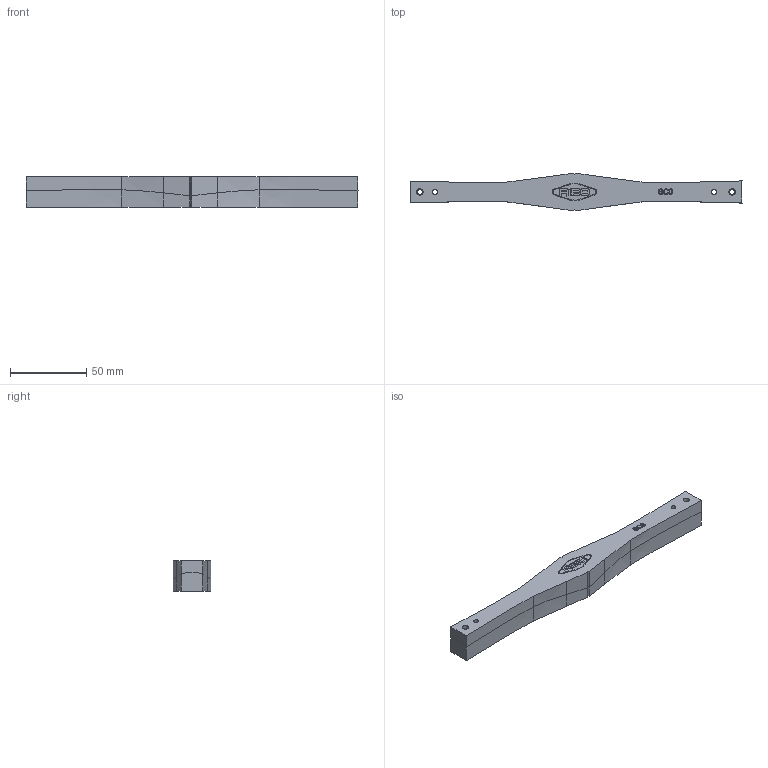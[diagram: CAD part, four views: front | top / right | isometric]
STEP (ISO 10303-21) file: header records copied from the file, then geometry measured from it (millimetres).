
FILE_DESCRIPTION(/* description */ (''),/* implementation_level */ '2;1');
FILE_NAME(/* name */ 'C:\Users\rbobo\Documents\Fusion Backups\SubcontraShaperRev0.stp',/* time_stamp */ '2024-02-15T10:30:02-06:00',/* author */ ('rbobo'),/* organization */ (''),/* preprocessor_version */ 'ST-DEVELOPER v18.1',/* originating_system */ 'Autodesk Inventor 2021',/* authorisation */ '');
FILE_SCHEMA (('AUTOMOTIVE_DESIGN { 1 0 10303 214 3 1 1 }'));
Products named in the file (1): SubcontraShaper v17
Bounding box: 218 x 24.73 x 20 mm (x, y, z)
Volume: 65395.9 mm3; surface area: 23900.9 mm2
Topology: 2 solids, 2 shells, 306 faces, 978 edges, 686 vertices
Faces by surface type: bspline 179, plane 111, cylinder 16
Full cylindrical faces by diameter (mm): 3.175 x4, 4.216 x2, 6.604 x2
Entity records: 38804 total; most frequent: CARTESIAN_POINT 31313, ORIENTED_EDGE 1956, EDGE_CURVE 978, DIRECTION 886, VERTEX_POINT 686, LINE 450, VECTOR 450, B_SPLINE_CURVE_WITH_KNOTS 438
